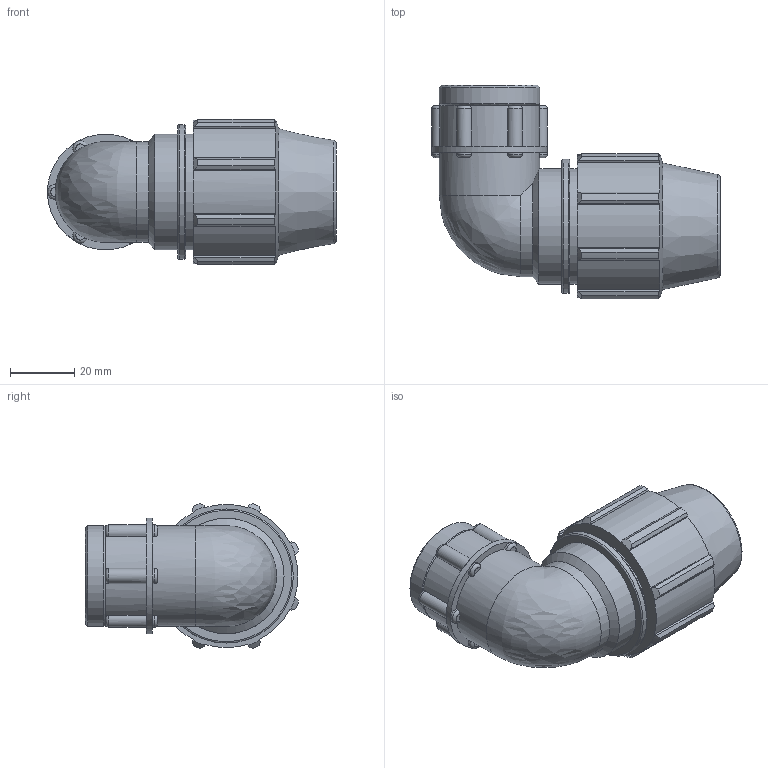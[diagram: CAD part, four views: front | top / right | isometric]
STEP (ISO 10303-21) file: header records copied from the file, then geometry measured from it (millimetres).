
FILE_DESCRIPTION(/* description */ ('PLASSON 90° ELBOW FEMALE ADAPTOR 1/2'''' - 3/4''''F'),/* implementation_level */ '2;1');
FILE_NAME(/* name */ 'C:\Dropbox\KIMPROJECTS-Inventor 2019\99-16-3568-Processing Inch\ASTM Compression 2021\0715M0\0715M0005007.ipt.stp',/* time_stamp */ '2021-08-26T12:33:39+03:00',/* author */ ('KIM'),/* organization */ (''),/* preprocessor_version */ 'ST-DEVELOPER v17.2',/* originating_system */ 'Autodesk Inventor 2019',/* authorisation */ '');
FILE_SCHEMA (('AUTOMOTIVE_DESIGN { 1 0 10303 214 3 1 1 }'));
Length unit declared in the file: inch
Products named in the file (1): 0715M0005007
Bounding box: 89.91 x 66.53 x 45.17 mm (x, y, z)
Volume: 76507.5 mm3; surface area: 24162.5 mm2
Topology: 1 solids, 1 shells, 139 faces, 395 edges, 262 vertices
Faces by surface type: plane 60, cylinder 46, cone 16, torus 15, bspline 2
Full cylindrical faces by diameter (mm): 16.882 x1, 21.2 x1, 21.705 x1, 24.117 x1, 31.352 x2, 36.005 x2, 36.055 x1, 41.765 x1
Entity records: 5043 total; most frequent: CARTESIAN_POINT 1201, DIRECTION 796, ORIENTED_EDGE 782, EDGE_CURVE 391, AXIS2_PLACEMENT_3D 329, VERTEX_POINT 262, CIRCLE 187, EDGE_LOOP 149
